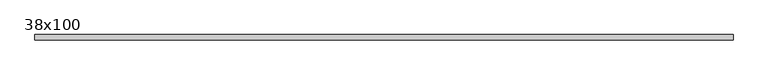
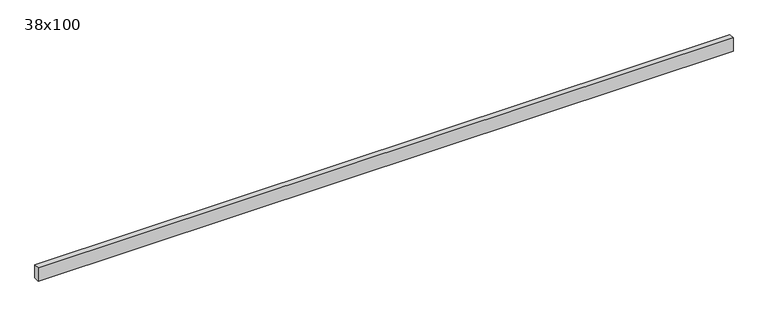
"""IFC4 building model written with IfcOpenShell, lengths in millimetres: beam geometry, Poutre - Bois de construction de dimensions courantes : 38x100."""

import ifcopenshell
import ifcopenshell.guid

model = None  # the IFC model being written
_history = None  # IfcOwnerHistory: only IFC2X3 demands one
_inside = {}  # id of a spatial element -> (the spatial element, [elements in it])
_under = {}  # id of a project, library or spatial element -> (it, [spatial elements below it])
_declared = {}  # id of a project -> (the project, [libraries it declares])
_typed = {}  # id of a type object -> (the type object, [elements of that type])
_made_of = {}  # id of a material, layer set ... -> (it, [elements and type objects made of it])


def new_model(schema):
    """Start an empty IFC model of exactly this schema.

    Asked for "IFC4X3", IfcOpenShell would pick the latest addendum, in which some entities
    have other attributes; the version numbers below select the first issue.
    IFC2X3 requires an IfcOwnerHistory on every rooted entity: one is made here for all.
    """
    global model, _history
    if schema == "IFC4X3":
        model = ifcopenshell.file(schema_version=(4, 3, 0, 0))
    else:
        model = ifcopenshell.file(schema=schema)
    _inside.clear()
    _under.clear()
    _declared.clear()
    _typed.clear()
    _made_of.clear()
    _history = None
    if model.schema == "IFC2X3":
        org = make("IfcOrganization", Name="unknown")
        user = make(
            "IfcPersonAndOrganization",
            ThePerson=make("IfcPerson", FamilyName="unknown"),
            TheOrganization=org,
        )
        app = make(
            "IfcApplication",
            ApplicationDeveloper=org,
            Version="unknown",
            ApplicationFullName="unknown",
            ApplicationIdentifier="unknown",
        )
        _history = make(
            "IfcOwnerHistory",
            OwningUser=user,
            OwningApplication=app,
            ChangeAction="ADDED",
            CreationDate=0,
        )
    return model


def make(cls, **values):
    """One entity of the class cls with the attributes given. An attribute that is None is left unset."""
    return model.create_entity(
        cls, **{name: value for name, value in values.items() if value is not None}
    )


def rooted(cls, **values):
    """An entity with a GlobalId (a new one), such as an element, a storey or a relation."""
    return make(cls, GlobalId=ifcopenshell.guid.new(), OwnerHistory=_history, **values)


def si_unit(unit_type, name, prefix=None):
    """IfcSIUnit, for example si_unit("LENGTHUNIT", "METRE", prefix="MILLI")."""
    return make("IfcSIUnit", UnitType=unit_type, Prefix=prefix, Name=name)


def assignment(units):
    """IfcUnitAssignment: the units of a project."""
    return None if units is None else make("IfcUnitAssignment", Units=units)


def point(xyz):
    """IfcCartesianPoint."""
    return None if xyz is None else make("IfcCartesianPoint", Coordinates=xyz)


def direction(xyz):
    """IfcDirection."""
    return None if xyz is None else make("IfcDirection", DirectionRatios=xyz)


def frame(location, z_axis=None, x_axis=None):
    """IfcAxis2Placement3D, a coordinate frame: its origin and axes. An axis left out is left unset."""
    return make(
        "IfcAxis2Placement3D",
        Location=point(location),
        Axis=direction(z_axis),
        RefDirection=direction(x_axis),
    )


def origin():
    """The frame at (0, 0, 0) with its axes left unset."""
    return frame((0.0, 0.0, 0.0))


def place(relative_to, where):
    """IfcLocalPlacement: puts the frame where relative to a parent placement (None: the world)."""
    return make(
        "IfcLocalPlacement", PlacementRelTo=relative_to, RelativePlacement=where
    )


def context(
    kind, dimensions, precision=None, world=None, true_north=None, identifier=None
):
    """IfcGeometricRepresentationContext, for example the 3D "Model" context."""
    return make(
        "IfcGeometricRepresentationContext",
        ContextIdentifier=identifier,
        ContextType=kind,
        CoordinateSpaceDimension=dimensions,
        Precision=precision,
        WorldCoordinateSystem=world,
        TrueNorth=true_north,
    )


def project(units=None, contexts=None):
    """IfcProject with its units and contexts."""
    return rooted(
        "IfcProject",
        Name="project",
        RepresentationContexts=contexts,
        UnitsInContext=assignment(units),
    )


def spatial(cls, under=None, at=None, **own):
    """A site, building, storey or space (cls), placed at a placement, below another one or the project."""
    s = rooted(cls, ObjectPlacement=at, **own)
    if under is not None:
        _under.setdefault(under.id(), (under, []))[1].append(s)
    return s


def polyline(points):
    """IfcPolyline through the points."""
    return make("IfcPolyline", Points=[point(p) for p in points])


def outline(outer, holes=None, kind="AREA"):
    """IfcArbitraryClosedProfileDef: a profile drawn as a closed curve; with holes, ...WithVoids."""
    if holes is None:
        return make("IfcArbitraryClosedProfileDef", ProfileType=kind, OuterCurve=outer)
    return make(
        "IfcArbitraryProfileDefWithVoids",
        ProfileType=kind,
        OuterCurve=outer,
        InnerCurves=holes,
    )


def extrude(swept, where, along, depth):
    """IfcExtrudedAreaSolid: the profile swept, set in the frame where, extruded along a direction by depth."""
    return make(
        "IfcExtrudedAreaSolid",
        SweptArea=swept,
        Position=where,
        ExtrudedDirection=direction(along),
        Depth=depth,
    )


def shape(context_of_items, identifier, shape_type, items):
    """IfcShapeRepresentation: the items that make up one representation, for example the "Body"."""
    return make(
        "IfcShapeRepresentation",
        ContextOfItems=context_of_items,
        RepresentationIdentifier=identifier,
        RepresentationType=shape_type,
        Items=items,
    )


def source(mapping_origin, context_of_items, identifier, shape_type, items):
    """IfcRepresentationMap: a shape defined once, which mapped items show again and again."""
    return make(
        "IfcRepresentationMap",
        MappingOrigin=mapping_origin,
        MappedRepresentation=shape(context_of_items, identifier, shape_type, items),
    )


def transform(
    local_origin,
    x_axis=None,
    y_axis=None,
    z_axis=None,
    scale=None,
    scale2=None,
    scale3=None,
    uniform=True,
):
    """IfcCartesianTransformationOperator3D, or its non-uniform kind. x_axis, y_axis, z_axis: its Axis1, 2, 3."""
    if uniform:
        return make(
            "IfcCartesianTransformationOperator3D",
            Axis1=direction(x_axis),
            Axis2=direction(y_axis),
            LocalOrigin=point(local_origin),
            Scale=scale,
            Axis3=direction(z_axis),
        )
    return make(
        "IfcCartesianTransformationOperator3DnonUniform",
        Axis1=direction(x_axis),
        Axis2=direction(y_axis),
        LocalOrigin=point(local_origin),
        Scale=scale,
        Axis3=direction(z_axis),
        Scale2=scale2,
        Scale3=scale3,
    )


def mapped(mapping_source, mapping_target):
    """IfcMappedItem: shows the shape of a source again, moved by a transform."""
    return make(
        "IfcMappedItem", MappingSource=mapping_source, MappingTarget=mapping_target
    )


def made_of(thing, what):
    """Note that an element or type object is made of a material, layer set ...; save() writes the relation."""
    if what is not None:
        _made_of.setdefault(what.id(), (what, []))[1].append(thing)
    return thing


def element(
    cls,
    number,
    at=None,
    inside=None,
    cuts=None,
    type_object=None,
    material=None,
    context=None,
    identifier="Body",
    shape_type=None,
    held_by="IfcProductDefinitionShape",
    body=None,
    shapes=None,
    **own,
):
    """One element of the class cls, such as IfcWall. Its Tag is "e" and its number.

    at: its placement. inside: the storey or other place that contains it. cuts: it is an
    opening in that element (IfcRelVoidsElement). A single representation is given by context,
    identifier, shape_type and body (its items); several are given by shapes. held_by: the class
    of the entity that holds the representations. save() writes the other relations.
    """
    e = rooted(cls, Tag="e%d" % number, ObjectPlacement=at, **own)
    if body is not None:
        shapes = [shape(context, identifier, shape_type, body)]
    if shapes is not None:
        e.Representation = make(held_by, Representations=shapes)
    if inside is not None:
        _inside.setdefault(inside.id(), (inside, []))[1].append(e)
    if cuts is not None:
        rooted(
            "IfcRelVoidsElement", RelatingBuildingElement=cuts, RelatedOpeningElement=e
        )
    if type_object is not None:
        _typed.setdefault(type_object.id(), (type_object, []))[1].append(e)
    return made_of(e, material)


def aggregate(whole, parts):
    """IfcRelAggregates: a whole, such as a stair, and the parts it consists of."""
    return rooted("IfcRelAggregates", RelatingObject=whole, RelatedObjects=parts)


def save(model, path):
    """Write the relations noted so far, then the file.

    IfcRelAggregates (storeys below a building ...), IfcRelContainedInSpatialStructure (elements
    in a storey), IfcRelDefinesByType, IfcRelAssociatesMaterial and IfcRelDeclares: one each for
    every whole, place, type object, material and project.
    """
    for whole, parts in _under.values():
        aggregate(whole, parts)
    for where, things in _inside.values():
        rooted(
            "IfcRelContainedInSpatialStructure",
            RelatedElements=things,
            RelatingStructure=where,
        )
    for kind, things in _typed.values():
        rooted("IfcRelDefinesByType", RelatedObjects=things, RelatingType=kind)
    for what, things in _made_of.values():
        rooted("IfcRelAssociatesMaterial", RelatedObjects=things, RelatingMaterial=what)
    for by, libraries in _declared.values():
        rooted("IfcRelDeclares", RelatingContext=by, RelatedDefinitions=libraries)
    model.write(path)


def beam_38x100_daeb397e(model_context):
    return source(origin(), model_context, "Body", "SweptSolid", [
        extrude(outline(polyline([(2462.5, 19.05), (2462.5, -19.05), (-2462.5, -19.05), (-2462.5, 19.05), (2462.5, 19.05)])), frame((0.0, 0.0, -50.0), z_axis=(0.0, 0.0, 1.0), x_axis=(1.0, 0.0, 0.0)), (0.0, 0.0, 1.0), 100.0),
    ])


if __name__ == "__main__":
    model = new_model("IFC4")
    model_context = context("Model", 3, world=origin())
    ifc_project = project(units=[si_unit("LENGTHUNIT", "METRE", prefix="MILLI")], contexts=[model_context])
    site = spatial("IfcSite", under=ifc_project)
    building = spatial("IfcBuilding", under=site)
    placement = place(None, origin())
    beam_38x100_shape = beam_38x100_daeb397e(model_context)
    element("IfcBeam", 1, ObjectType="Poutre - Bois de construction de dimensions courantes : 38x100", at=placement, inside=building, context=model_context, shape_type="MappedRepresentation", body=[
        mapped(beam_38x100_shape, transform((0.0, 0.0, 0.0), x_axis=(1.0, 0.0, 0.0), y_axis=(0.0, 1.0, 0.0), z_axis=(0.0, 0.0, 1.0))),
    ])
    save(model, "model.ifc")
